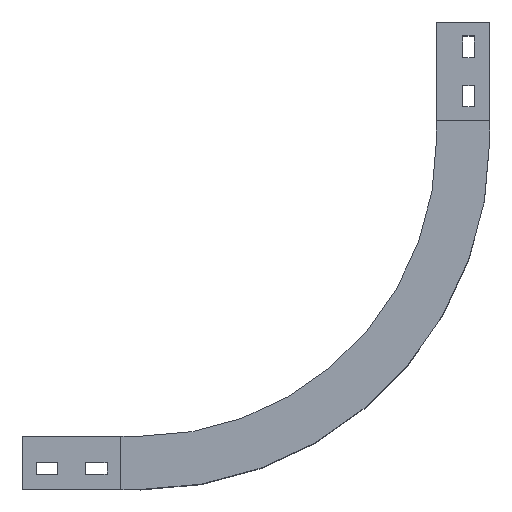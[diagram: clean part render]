
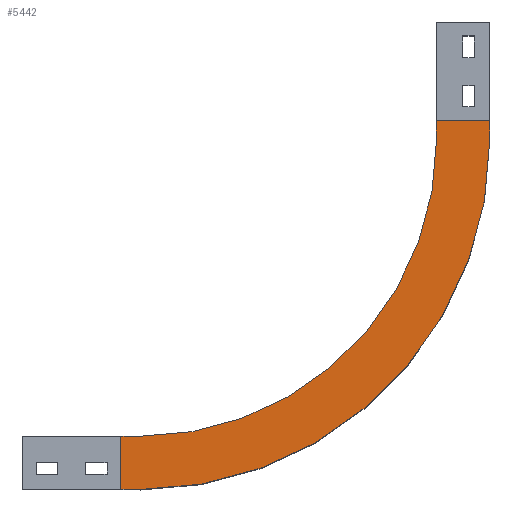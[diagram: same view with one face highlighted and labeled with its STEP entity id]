
A CAD part, top view. The second image highlights one B-rep face of the part: STEP entity #5442.
In plain terms, the highlighted planar face has unit normal (0, 0, 1).
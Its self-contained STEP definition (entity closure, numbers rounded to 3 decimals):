
#359=CIRCLE('',#5835,354.);
#360=CIRCLE('',#5836,300.);
#722=FACE_OUTER_BOUND('',#1084,.T.);
#1084=EDGE_LOOP('',(#4939,#4940,#4941,#4942,#4943,#4944,#4945,#4946));
#1619=LINE('',#11468,#2175);
#1623=LINE('',#11476,#2179);
#1624=LINE('',#11480,#2180);
#1625=LINE('',#11482,#2181);
#1626=LINE('',#11484,#2182);
#1627=LINE('',#11487,#2183);
#2175=VECTOR('',#7117,304.8);
#2179=VECTOR('',#7123,304.8);
#2180=VECTOR('',#7126,304.8);
#2181=VECTOR('',#7127,304.8);
#2182=VECTOR('',#7128,304.8);
#2183=VECTOR('',#7131,304.8);
#2695=VERTEX_POINT('',#11466);
#2696=VERTEX_POINT('',#11467);
#2699=VERTEX_POINT('',#11475);
#2700=VERTEX_POINT('',#11477);
#2701=VERTEX_POINT('',#11479);
#2702=VERTEX_POINT('',#11481);
#2703=VERTEX_POINT('',#11483);
#2704=VERTEX_POINT('',#11485);
#3447=EDGE_CURVE('',#2695,#2696,#1619,.T.);
#3451=EDGE_CURVE('',#2695,#2699,#1623,.T.);
#3452=EDGE_CURVE('',#2699,#2700,#359,.T.);
#3453=EDGE_CURVE('',#2700,#2701,#1624,.T.);
#3454=EDGE_CURVE('',#2701,#2702,#1625,.T.);
#3455=EDGE_CURVE('',#2702,#2703,#1626,.T.);
#3456=EDGE_CURVE('',#2703,#2704,#360,.T.);
#3457=EDGE_CURVE('',#2704,#2696,#1627,.T.);
#4939=ORIENTED_EDGE('',*,*,#3447,.F.);
#4940=ORIENTED_EDGE('',*,*,#3451,.T.);
#4941=ORIENTED_EDGE('',*,*,#3452,.T.);
#4942=ORIENTED_EDGE('',*,*,#3453,.T.);
#4943=ORIENTED_EDGE('',*,*,#3454,.T.);
#4944=ORIENTED_EDGE('',*,*,#3455,.T.);
#4945=ORIENTED_EDGE('',*,*,#3456,.T.);
#4946=ORIENTED_EDGE('',*,*,#3457,.T.);
#5178=PLANE('',#5834);
#5442=ADVANCED_FACE('',(#722),#5178,.T.);
#5834=AXIS2_PLACEMENT_3D('',#11474,#7121,#7122);
#5835=AXIS2_PLACEMENT_3D('',#11478,#7124,#7125);
#5836=AXIS2_PLACEMENT_3D('',#11486,#7129,#7130);
#7117=DIRECTION('',(0.,1.,0.));
#7121=DIRECTION('center_axis',(0.,0.,1.));
#7122=DIRECTION('ref_axis',(1.,0.,0.));
#7123=DIRECTION('',(1.,0.,0.));
#7124=DIRECTION('center_axis',(0.,0.,1.));
#7125=DIRECTION('ref_axis',(0.,-1.,0.));
#7126=DIRECTION('',(0.,1.,0.));
#7127=DIRECTION('',(-1.,0.,0.));
#7128=DIRECTION('',(0.,-1.,0.));
#7129=DIRECTION('center_axis',(0.,0.,-1.));
#7130=DIRECTION('ref_axis',(0.,-1.,0.));
#7131=DIRECTION('',(-1.,0.,0.));
#11466=CARTESIAN_POINT('',(-347.,-27.,155.5));
#11467=CARTESIAN_POINT('',(-347.,27.,155.5));
#11468=CARTESIAN_POINT('',(-347.,-27.,155.5));
#11474=CARTESIAN_POINT('Origin',(-347.,-27.,155.5));
#11475=CARTESIAN_POINT('',(-327.,-27.,155.5));
#11476=CARTESIAN_POINT('',(-347.,-27.,155.5));
#11477=CARTESIAN_POINT('',(27.,327.,155.5));
#11478=CARTESIAN_POINT('Origin',(-327.,327.,155.5));
#11479=CARTESIAN_POINT('',(27.,347.,155.5));
#11480=CARTESIAN_POINT('',(27.,327.,155.5));
#11481=CARTESIAN_POINT('',(-27.,347.,155.5));
#11482=CARTESIAN_POINT('',(-27.,347.,155.5));
#11483=CARTESIAN_POINT('',(-27.,327.,155.5));
#11484=CARTESIAN_POINT('',(-27.,327.,155.5));
#11485=CARTESIAN_POINT('',(-327.,27.,155.5));
#11486=CARTESIAN_POINT('Origin',(-327.,327.,155.5));
#11487=CARTESIAN_POINT('',(-347.,27.,155.5));
